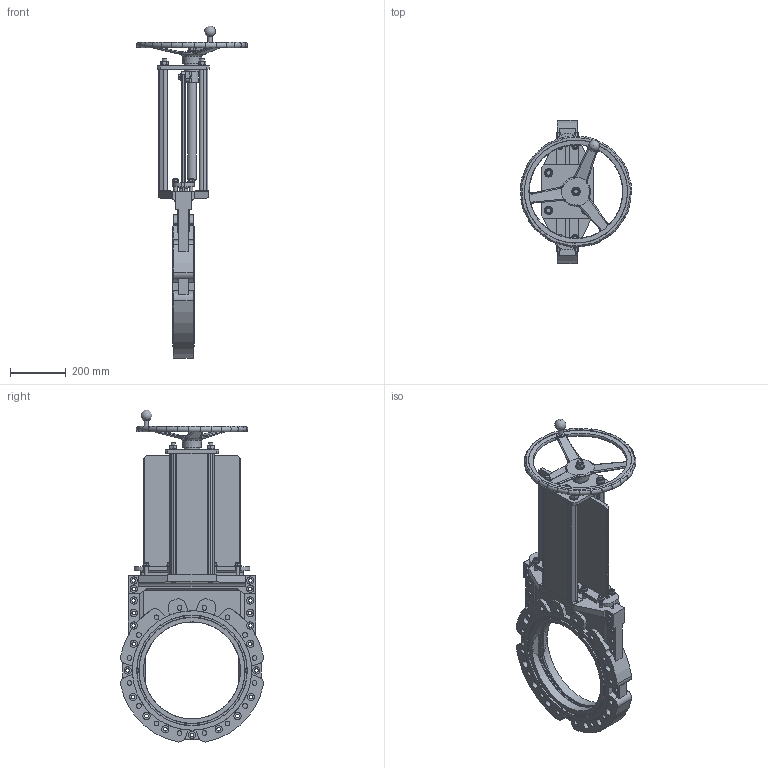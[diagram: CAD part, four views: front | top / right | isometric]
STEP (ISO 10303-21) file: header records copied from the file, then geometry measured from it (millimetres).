
FILE_DESCRIPTION(/* description */ (''),/* implementation_level */ '2;1');
FILE_NAME(/* name */ 'F:\Emir\3D-block special\WB\WB14\WB14-DN350-PN10-HW.stp',/* time_stamp */ '2018-01-08T11:46:45+01:00',/* author */ ('emimus'),/* organization */ (''),/* preprocessor_version */ 'ST-DEVELOPER v16.5',/* originating_system */ 'Autodesk Inventor 2017',/* authorisation */ '');
FILE_SCHEMA (('CONFIG_CONTROL_DESIGN'));
Length unit declared in the file: millimetre
Products named in the file (1): WB14-DN350-PN10-HW_Shrinkwrap_1
Bounding box: 401.62 x 515.8 x 1196.4 mm (x, y, z)
Volume: 15828154.2 mm3; surface area: 2411279.4 mm2
Topology: 1 solids, 1 shells, 1323 faces, 3418 edges, 2229 vertices
Faces by surface type: plane 665, cylinder 393, torus 101, cone 89, bspline 74, sphere 1
Full cylindrical faces by diameter (mm): 8.5 x1, 12 x10, 13 x29, 13.835 x4, 16 x10, 16.63 x2, 17 x4, 17.294 x32, 24 x10, 25 x1, 26 x42, 30 x5, 32 x1, 55 x2, 350 x2, 371.391 x1, 381.5 x2, 398.5 x2, 430 x2
Entity records: 48634 total; most frequent: CARTESIAN_POINT 17525, DIRECTION 6540, ORIENTED_EDGE 6228, EDGE_CURVE 3114, AXIS2_PLACEMENT_3D 2558, VERTEX_POINT 2142, EDGE_LOOP 1768, LINE 1424
